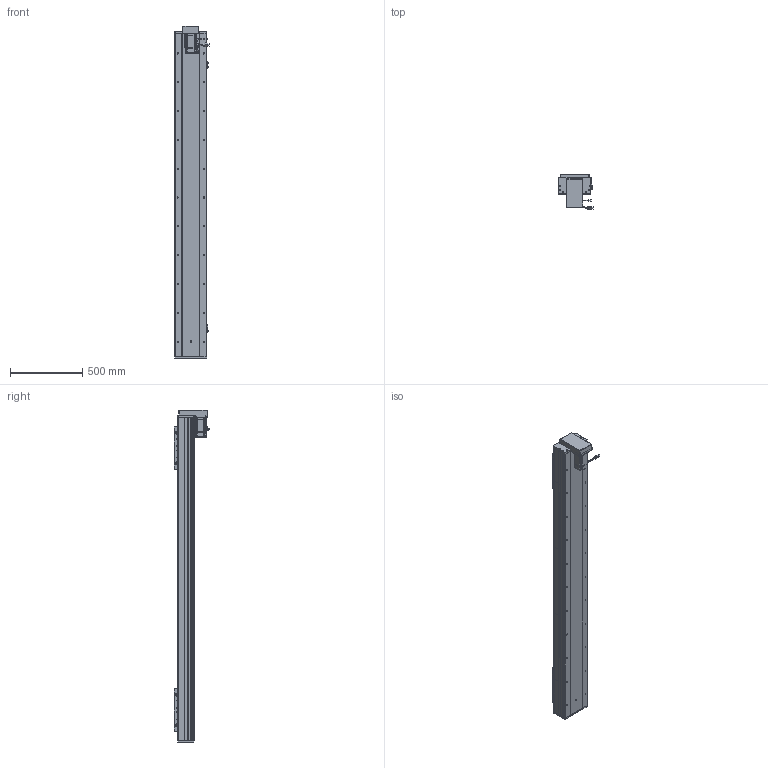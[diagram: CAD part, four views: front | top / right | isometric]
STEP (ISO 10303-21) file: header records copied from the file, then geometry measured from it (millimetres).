
FILE_DESCRIPTION (( 'STEP AP203' ), '1' );
FILE_NAME ('RY220F-L2525-800-BK-邧嶺.SLDASM_1800.step', '2022-08-06T08:08:30', ( '' ), ( '' ), 'SwSTEP 2.0', 'SolidWorks 2016', '' );
FILE_SCHEMA (( 'CONFIG_CONTROL_DESIGN' ));
Length unit declared in the file: millimetre
Products named in the file (15): RY220狟殏萇儂假蚾啣; RY220狟殏萇儂欶; RY220F-L2525-800-BK-邧嶺.SLDASM_1800; RY220F-詩湍揤踡輸; RY220F綴裔啣; 滅袉蝶18-24; RY220F-蛌殏奻裔啣-800_1800; RY220F-滅鳥奻裔; RY220F蛌殏菁釱-800-邧嶺_1800; 怢湛750W_ECMA-CX0807ES; 覜茼ん672; RY220F-672覜茼んえ; 侐源滅袉蝶; RY220F-祥凄詩湍-蛌殏-800_1800; RY220F臏賑釱25-32佪裝
Assembly tree (24 placements, depth 2):
  RY220F-L2525-800-BK-邧嶺.SLDASM_1800
    RY220F蛌殏菁釱-800-邧嶺_1800
    RY220F-蛌殏奻裔啣-800_1800  x2
    怢湛750W_ECMA-CX0807ES
    RY220F臏賑釱25-32佪裝  x2
    RY220F-滅鳥奻裔  x2
    滅袉蝶18-24  x3
    RY220F綴裔啣
    RY220F-祥凄詩湍-蛌殏-800_1800
    RY220F-詩湍揤踡輸  x2
    覜茼ん672  x3
    RY220F-672覜茼んえ  x2
    侐源滅袉蝶  x2
    RY220狟殏萇儂假蚾啣
    RY220狟殏萇儂欶
Bounding box: 237.27 x 247.24 x 2303 mm (x, y, z)
Volume: 19879095.6 mm3; surface area: 5239052.3 mm2
Topology: 25 solids, 25 shells, 2899 faces, 7858 edges, 4829 vertices
Faces by surface type: cylinder 1302, plane 1062, cone 464, bspline 45, sphere 16, torus 10
Entity records: 72165 total; most frequent: CARTESIAN_POINT 19231, ORIENTED_EDGE 10658, DIRECTION 10477, EDGE_CURVE 5329, AXIS2_PLACEMENT_3D 3742, VERTEX_POINT 3445, VECTOR 2993, LINE 2993
